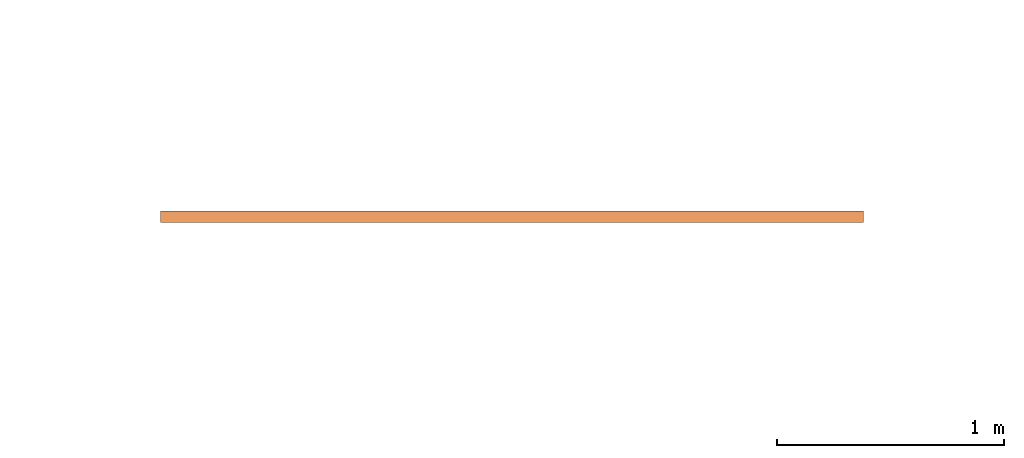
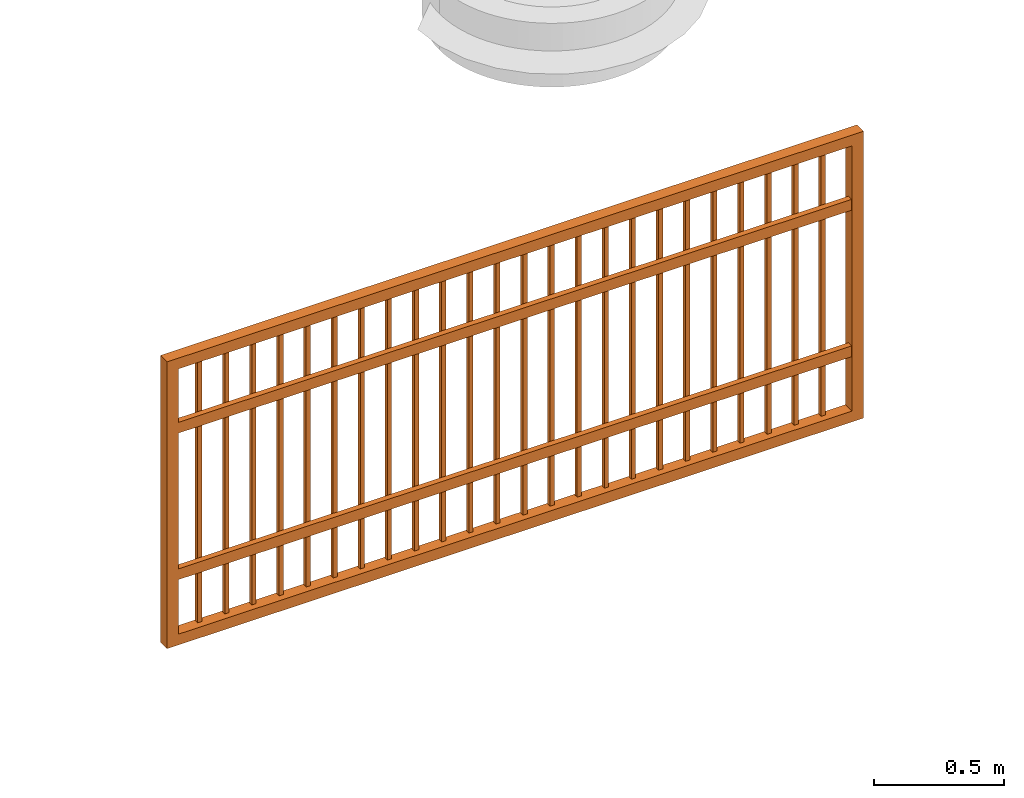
# One storey, part 3 of 4: 1 proxy.
"""IFC2X3 building model written with IfcOpenShell, lengths in millimetres."""

from ifc_helpers import new_model, entity, si_unit, converted_unit, derived_unit, direction, frame, frame_2d, origin, origin_2d_with_axis, place, context, subcontext, project, spatial, polyline, rectangle, outline, extrude, source, transform, mapped, material, type_object, type_shapes, element, save


model = new_model("IFC2X3")

# Units and contexts
model_context = context("Model", 3, precision=0.01, world=origin(), true_north=direction((6.12303176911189e-17, 1.0)))
body_context = subcontext(model_context, "Body", "Model", "MODEL_VIEW")
ifc_project = project(units=[si_unit("LENGTHUNIT", "METRE", prefix="MILLI"), si_unit("AREAUNIT", "SQUARE_METRE"), si_unit("VOLUMEUNIT", "CUBIC_METRE"), converted_unit("PLANEANGLEUNIT", "DEGREE", entity("IfcRatioMeasure", 0.0174532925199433), si_unit("PLANEANGLEUNIT", "RADIAN"), dimensions=[0, 0, 0, 0, 0, 0, 0]), si_unit("MASSUNIT", "GRAM", prefix="KILO"), derived_unit("MASSDENSITYUNIT", [(si_unit("MASSUNIT", "GRAM", prefix="KILO"), 1), (si_unit("LENGTHUNIT", "METRE"), -3)]), si_unit("TIMEUNIT", "SECOND"), si_unit("FREQUENCYUNIT", "HERTZ"), si_unit("THERMODYNAMICTEMPERATUREUNIT", "DEGREE_CELSIUS"), derived_unit("THERMALTRANSMITTANCEUNIT", [(si_unit("MASSUNIT", "GRAM", prefix="KILO"), 1), (si_unit("THERMODYNAMICTEMPERATUREUNIT", "KELVIN"), -1), (si_unit("TIMEUNIT", "SECOND"), -3)]), derived_unit("VOLUMETRICFLOWRATEUNIT", [(si_unit("LENGTHUNIT", "METRE"), 3), (si_unit("TIMEUNIT", "SECOND"), -1)]), si_unit("ELECTRICCURRENTUNIT", "AMPERE"), si_unit("ELECTRICVOLTAGEUNIT", "VOLT"), si_unit("POWERUNIT", "WATT"), si_unit("FORCEUNIT", "NEWTON", prefix="KILO"), si_unit("ILLUMINANCEUNIT", "LUX"), si_unit("LUMINOUSFLUXUNIT", "LUMEN"), si_unit("LUMINOUSINTENSITYUNIT", "CANDELA"), derived_unit("USERDEFINED", [(si_unit("MASSUNIT", "GRAM", prefix="KILO"), -1), (si_unit("LENGTHUNIT", "METRE"), -2), (si_unit("TIMEUNIT", "SECOND"), 3), (si_unit("LUMINOUSFLUXUNIT", "LUMEN"), 1)]), derived_unit("LINEARVELOCITYUNIT", [(si_unit("LENGTHUNIT", "METRE"), 1), (si_unit("TIMEUNIT", "SECOND"), -1)]), si_unit("PRESSUREUNIT", "PASCAL"), derived_unit("USERDEFINED", [(si_unit("LENGTHUNIT", "METRE"), -2), (si_unit("MASSUNIT", "GRAM", prefix="KILO"), 1), (si_unit("TIMEUNIT", "SECOND"), -2)])], contexts=[model_context])

# Site, building, storey
site_placement = place(None, origin())
site = spatial("IfcSite", under=ifc_project, at=site_placement, Name="Surface", CompositionType="ELEMENT")
building_placement = place(site_placement, origin())
building = spatial("IfcBuilding", under=site, at=building_placement, CompositionType="ELEMENT")
storey_placement = place(building_placement, origin())
storey = spatial("IfcBuildingStorey", under=building, at=storey_placement, Name="N.G.L", CompositionType="ELEMENT", Elevation=0.0)

# Proxy
ifc_material = material(Name="Steel, Galvanized")
building_element_proxy_type = type_object("IfcBuildingElementProxyType", Name="Gate_15571 (1)", PredefinedType="NOTDEFINED", material=ifc_material)
shared_shape = source(origin(), body_context, "Body", "SweptSolid", [
    extrude(rectangle(XDim=19.05, YDim=19.0500000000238, at=origin_2d_with_axis()), frame((1388.02699999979, -12.6999999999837, 50.7999999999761), z_axis=(0.0, 0.0, 1.0), x_axis=(0.0, 1.0, 0.0)), (0.0, 0.0, 1.0), 1248.40000000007),
    extrude(rectangle(XDim=19.05, YDim=19.0500000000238, at=origin_2d_with_axis()), frame((1267.3289999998, -12.6999999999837, 50.7999999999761), z_axis=(0.0, 0.0, 1.0), x_axis=(0.0, 1.0, 0.0)), (0.0, 0.0, 1.0), 1248.40000000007),
    extrude(rectangle(XDim=19.05, YDim=19.0500000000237, at=frame_2d((0.0, 6.83897383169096e-14), x_axis=(1.0, 0.0))), frame((1146.63099999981, -12.6999999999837, 50.7999999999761), z_axis=(0.0, 0.0, 1.0), x_axis=(0.0, 1.0, 0.0)), (0.0, 0.0, 1.0), 1248.40000000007),
    extrude(rectangle(XDim=19.05, YDim=19.0500000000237, at=frame_2d((0.0, -6.83897383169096e-14), x_axis=(1.0, 0.0))), frame((1025.93299999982, -12.6999999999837, 50.7999999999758), z_axis=(0.0, 0.0, 1.0), x_axis=(0.0, 1.0, 0.0)), (0.0, 0.0, 1.0), 1248.40000000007),
    extrude(rectangle(XDim=19.05, YDim=19.0500000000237, at=frame_2d((0.0, 6.83897383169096e-14), x_axis=(1.0, 0.0))), frame((905.234999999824, -12.6999999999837, 50.7999999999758), z_axis=(0.0, 0.0, 1.0), x_axis=(0.0, 1.0, 0.0)), (0.0, 0.0, 1.0), 1248.40000000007),
    extrude(rectangle(XDim=19.05, YDim=19.0500000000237, at=frame_2d((0.0, 6.83897383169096e-14), x_axis=(1.0, 0.0))), frame((784.536999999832, -12.6999999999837, 50.7999999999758), z_axis=(0.0, 0.0, 1.0), x_axis=(0.0, 1.0, 0.0)), (0.0, 0.0, 1.0), 1248.40000000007),
    extrude(rectangle(XDim=19.05, YDim=19.0500000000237, at=frame_2d((0.0, 6.83897383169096e-14), x_axis=(1.0, 0.0))), frame((663.838999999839, -12.6999999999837, 50.7999999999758), z_axis=(0.0, 0.0, 1.0), x_axis=(0.0, 1.0, 0.0)), (0.0, 0.0, 1.0), 1248.40000000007),
    extrude(rectangle(XDim=19.05, YDim=19.0500000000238, at=frame_2d((0.0, 3.37507799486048e-14), x_axis=(1.0, 0.0))), frame((543.140999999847, -12.6999999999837, 50.7999999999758), z_axis=(0.0, 0.0, 1.0), x_axis=(0.0, 1.0, 0.0)), (0.0, 0.0, 1.0), 1248.40000000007),
    extrude(rectangle(XDim=19.05, YDim=19.0500000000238, at=frame_2d((0.0, 3.37507799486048e-14), x_axis=(1.0, 0.0))), frame((422.442999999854, -12.6999999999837, 50.7999999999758), z_axis=(0.0, 0.0, 1.0), x_axis=(0.0, 1.0, 0.0)), (0.0, 0.0, 1.0), 1248.40000000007),
    extrude(rectangle(XDim=19.05, YDim=19.0500000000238, at=origin_2d_with_axis()), frame((301.744999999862, -12.6999999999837, 50.7999999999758), z_axis=(0.0, 0.0, 1.0), x_axis=(0.0, 1.0, 0.0)), (0.0, 0.0, 1.0), 1248.40000000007),
    extrude(rectangle(XDim=19.05, YDim=19.0500000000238, at=origin_2d_with_axis()), frame((181.046999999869, -12.6999999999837, 50.7999999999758), z_axis=(0.0, 0.0, 1.0), x_axis=(0.0, 1.0, 0.0)), (0.0, 0.0, 1.0), 1248.40000000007),
    extrude(rectangle(XDim=19.05, YDim=19.0500000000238, at=origin_2d_with_axis()), frame((60.3489999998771, -12.6999999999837, 50.7999999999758), z_axis=(0.0, 0.0, 1.0), x_axis=(0.0, 1.0, 0.0)), (0.0, 0.0, 1.0), 1248.40000000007),
    extrude(rectangle(XDim=19.05, YDim=19.0500000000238, at=origin_2d_with_axis()), frame((-60.3490000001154, -12.6999999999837, 50.7999999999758), z_axis=(0.0, 0.0, 1.0), x_axis=(0.0, 1.0, 0.0)), (0.0, 0.0, 1.0), 1248.40000000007),
    extrude(rectangle(XDim=19.05, YDim=19.0500000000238, at=origin_2d_with_axis()), frame((-181.047000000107, -12.6999999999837, 50.7999999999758), z_axis=(0.0, 0.0, 1.0), x_axis=(0.0, 1.0, 0.0)), (0.0, 0.0, 1.0), 1248.40000000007),
    extrude(rectangle(XDim=19.05, YDim=19.0500000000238, at=origin_2d_with_axis()), frame((-301.7450000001, -12.6999999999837, 50.7999999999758), z_axis=(0.0, 0.0, 1.0), x_axis=(0.0, 1.0, 0.0)), (0.0, 0.0, 1.0), 1248.40000000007),
    extrude(rectangle(XDim=19.05, YDim=19.0500000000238, at=frame_2d((0.0, 3.37507799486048e-14), x_axis=(1.0, 0.0))), frame((-422.443000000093, -12.6999999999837, 50.7999999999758), z_axis=(0.0, 0.0, 1.0), x_axis=(0.0, 1.0, 0.0)), (0.0, 0.0, 1.0), 1248.40000000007),
    extrude(rectangle(XDim=19.05, YDim=19.0500000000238, at=frame_2d((0.0, 3.37507799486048e-14), x_axis=(1.0, 0.0))), frame((-543.141000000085, -12.6999999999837, 50.7999999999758), z_axis=(0.0, 0.0, 1.0), x_axis=(0.0, 1.0, 0.0)), (0.0, 0.0, 1.0), 1248.40000000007),
    extrude(rectangle(XDim=19.05, YDim=19.0500000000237, at=frame_2d((0.0, 6.83897383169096e-14), x_axis=(1.0, 0.0))), frame((-663.839000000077, -12.6999999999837, 50.7999999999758), z_axis=(0.0, 0.0, 1.0), x_axis=(0.0, 1.0, 0.0)), (0.0, 0.0, 1.0), 1248.40000000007),
    extrude(rectangle(XDim=19.05, YDim=19.0500000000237, at=frame_2d((0.0, 6.83897383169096e-14), x_axis=(1.0, 0.0))), frame((-784.53700000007, -12.6999999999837, 50.7999999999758), z_axis=(0.0, 0.0, 1.0), x_axis=(0.0, 1.0, 0.0)), (0.0, 0.0, 1.0), 1248.40000000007),
    extrude(rectangle(XDim=19.05, YDim=19.0500000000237, at=frame_2d((0.0, -6.83897383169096e-14), x_axis=(1.0, 0.0))), frame((-905.235000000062, -12.6999999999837, 50.7999999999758), z_axis=(0.0, 0.0, 1.0), x_axis=(0.0, 1.0, 0.0)), (0.0, 0.0, 1.0), 1248.40000000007),
    extrude(rectangle(XDim=19.05, YDim=19.0500000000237, at=frame_2d((0.0, 6.83897383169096e-14), x_axis=(1.0, 0.0))), frame((-1025.93300000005, -12.6999999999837, 50.7999999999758), z_axis=(0.0, 0.0, 1.0), x_axis=(0.0, 1.0, 0.0)), (0.0, 0.0, 1.0), 1248.40000000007),
    extrude(rectangle(XDim=19.05, YDim=19.0500000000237, at=frame_2d((0.0, 6.83897383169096e-14), x_axis=(1.0, 0.0))), frame((-1146.63100000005, -12.6999999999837, 50.7999999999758), z_axis=(0.0, 0.0, 1.0), x_axis=(0.0, 1.0, 0.0)), (0.0, 0.0, 1.0), 1248.40000000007),
    extrude(rectangle(XDim=19.05, YDim=19.0500000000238, at=origin_2d_with_axis()), frame((-1267.32900000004, -12.6999999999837, 50.7999999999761), z_axis=(0.0, 0.0, 1.0), x_axis=(0.0, 1.0, 0.0)), (0.0, 0.0, 1.0), 1248.40000000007),
    extrude(rectangle(XDim=19.05, YDim=19.0500000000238, at=origin_2d_with_axis()), frame((-1388.02700000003, -12.6999999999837, 50.7999999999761), z_axis=(0.0, 0.0, 1.0), x_axis=(0.0, 1.0, 0.0)), (0.0, 0.0, 1.0), 1248.40000000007),
    extrude(rectangle(XDim=25.4000000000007, YDim=2998.40000000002, at=frame_2d((1.77635683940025e-15, -1.13686837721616e-13), x_axis=(1.0, 0.0))), frame((0.0, -34.9250000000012, 304.80000000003), z_axis=(0.0, 0.0, 1.0), x_axis=(0.0, 1.0, 0.0)), (0.0, 0.0, 1.0), 50.800000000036),
    extrude(rectangle(XDim=25.4000000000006, YDim=2998.40000000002, at=origin_2d_with_axis()), frame((0.0, -34.9250000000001, 994.400000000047), z_axis=(0.0, 0.0, 1.0), x_axis=(0.0, 1.0, 0.0)), (0.0, 0.0, 1.0), 50.7999999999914),
    extrude(outline(polyline([(-675.0, -1550.0), (675.0, -1550.0), (675.0, 1550.0), (-675.0, 1550.0), (-675.0, -1550.0)]), holes=[polyline([(-624.20000000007, -1499.19999999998), (-624.20000000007, 1499.20000000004), (624.199999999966, 1499.20000000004), (624.199999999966, -1499.19999999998), (-624.20000000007, -1499.19999999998)])]), frame((0.0, -50.8000000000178, 675.0), z_axis=(0.0, 1.0, 0.0), x_axis=(0.0, 0.0, -1.0)), (0.0, 0.0, 1.0), 50.8),
])
type_shapes(building_element_proxy_type, [shared_shape])
proxy_placement = place(storey_placement, frame((-2957.30297205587, -229.106326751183, 0.0)))
element("IfcBuildingElementProxy", 1, at=proxy_placement, inside=storey, type_object=building_element_proxy_type, material=ifc_material, Name="Gate_15571 (1):Gate_15571 (1)", ObjectType="Gate_15571 (1)", context=body_context, shape_type="MappedRepresentation", body=[
    mapped(shared_shape, transform((0.0, 0.0, 0.0), scale=1.0)),
])

save(model, "model.ifc")
